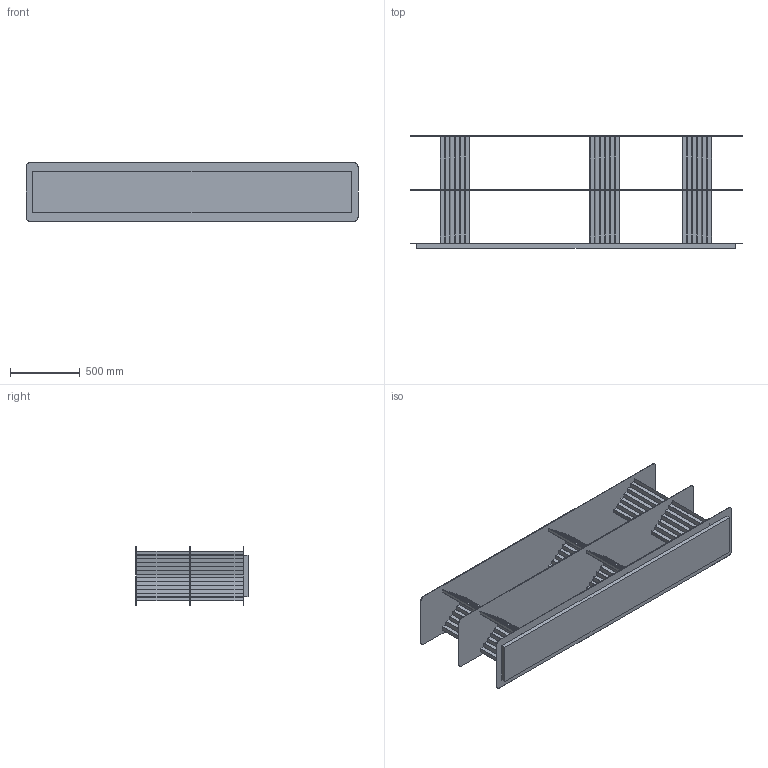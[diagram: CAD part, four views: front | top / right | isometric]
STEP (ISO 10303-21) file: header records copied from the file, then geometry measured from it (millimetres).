
FILE_DESCRIPTION (( 'STEP AP203' ), '1' );
FILE_NAME ('PLEC SHELVES L 2 NIVELES.STEP', '2025-05-08T09:53:53', ( '' ), ( '' ), 'SwSTEP 2.0', 'SolidWorks 2020', '' );
FILE_SCHEMA (( 'CONFIG_CONTROL_DESIGN' ));
Length unit declared in the file: millimetre
Products named in the file (1): PLEC SHELVES L 2 NIVELES
Bounding box: 2379 x 803 x 420 mm (x, y, z)
Volume: 37948089 mm3; surface area: 10896894 mm2
Topology: 10 solids, 10 shells, 360 faces, 1020 edges, 680 vertices
Faces by surface type: plane 348, cylinder 12
Entity records: 11507 total; most frequent: CARTESIAN_POINT 2061, ORIENTED_EDGE 2040, DIRECTION 1766, EDGE_CURVE 1020, LINE 996, VECTOR 996, VERTEX_POINT 680, AXIS2_PLACEMENT_3D 385
